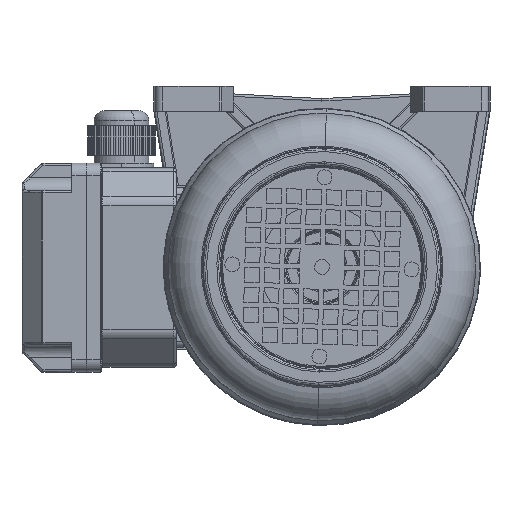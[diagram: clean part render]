
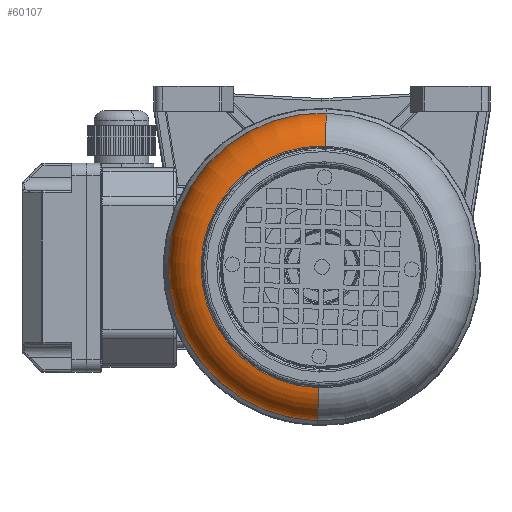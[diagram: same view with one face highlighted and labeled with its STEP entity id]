
A CAD part, front view. The second image highlights one B-rep face of the part: STEP entity #60107.
In plain terms, the highlighted toroidal (fillet/blend) face has major radius 46.75 mm and minor radius 15 mm.
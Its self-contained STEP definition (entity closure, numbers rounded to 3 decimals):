
#245 = FACE_OUTER_BOUND ( 'NONE', #28395, .T. ) ;
#696 = CARTESIAN_POINT ( 'NONE',  ( 11392.652, -26592.948, -46.75 ) ) ;
#2989 = AXIS2_PLACEMENT_3D ( 'NONE', #61931, #52221, #104706 ) ;
#4296 = DIRECTION ( 'NONE',  ( -1., 0., 0. ) ) ;
#5053 = TOROIDAL_SURFACE ( 'NONE', #2989, 46.75, 15. ) ;
#8166 = CARTESIAN_POINT ( 'NONE',  ( 11392.652, -26592.948, 46.75 ) ) ;
#12234 = CARTESIAN_POINT ( 'NONE',  ( 11392.652, -26592.948, -61.75 ) ) ;
#13534 = AXIS2_PLACEMENT_3D ( 'NONE', #696, #99410, #73740 ) ;
#16622 = CARTESIAN_POINT ( 'NONE',  ( 11407.538, -26592.948, -48.591 ) ) ;
#19940 = CIRCLE ( 'NONE', #109276, 15. ) ;
#21531 = VERTEX_POINT ( 'NONE', #12234 ) ;
#28395 = EDGE_LOOP ( 'NONE', ( #64133, #96035, #85957, #64932 ) ) ;
#28846 = VERTEX_POINT ( 'NONE', #43141 ) ;
#39144 = DIRECTION ( 'NONE',  ( 0., 0., 1. ) ) ;
#43141 = CARTESIAN_POINT ( 'NONE',  ( 11407.538, -26592.948, 48.591 ) ) ;
#52221 = DIRECTION ( 'NONE',  ( -1., 0., 0. ) ) ;
#55916 = DIRECTION ( 'NONE',  ( 0., 0., 1. ) ) ;
#56409 = VERTEX_POINT ( 'NONE', #16622 ) ;
#57053 = DIRECTION ( 'NONE',  ( -1., 0., 0. ) ) ;
#60107 = ADVANCED_FACE ( 'NONE', ( #245 ), #5053, .T. ) ;
#61867 = DIRECTION ( 'NONE',  ( 0., 0., -1. ) ) ;
#61931 = CARTESIAN_POINT ( 'NONE',  ( 11392.652, -26592.948, 0. ) ) ;
#64133 = ORIENTED_EDGE ( 'NONE', *, *, #93018, .F. ) ;
#64932 = ORIENTED_EDGE ( 'NONE', *, *, #112405, .F. ) ;
#66185 = CARTESIAN_POINT ( 'NONE',  ( 11392.652, -26592.948, 0. ) ) ;
#69566 = AXIS2_PLACEMENT_3D ( 'NONE', #83668, #4296, #39144 ) ;
#70625 = AXIS2_PLACEMENT_3D ( 'NONE', #66185, #57053, #55916 ) ;
#73740 = DIRECTION ( 'NONE',  ( 0., 0., 1. ) ) ;
#74294 = EDGE_CURVE ( 'NONE', #28846, #103303, #19940, .T. ) ;
#75019 = CIRCLE ( 'NONE', #69566, 48.591 ) ;
#78413 = DIRECTION ( 'NONE',  ( 0., -1., 0. ) ) ;
#83668 = CARTESIAN_POINT ( 'NONE',  ( 11407.538, -26592.948, 0. ) ) ;
#85957 = ORIENTED_EDGE ( 'NONE', *, *, #74294, .T. ) ;
#86398 = EDGE_CURVE ( 'NONE', #56409, #28846, #75019, .T. ) ;
#87335 = CARTESIAN_POINT ( 'NONE',  ( 11392.652, -26592.948, 61.75 ) ) ;
#93018 = EDGE_CURVE ( 'NONE', #56409, #21531, #111994, .T. ) ;
#96035 = ORIENTED_EDGE ( 'NONE', *, *, #86398, .T. ) ;
#99410 = DIRECTION ( 'NONE',  ( 0., 1., 0. ) ) ;
#103303 = VERTEX_POINT ( 'NONE', #87335 ) ;
#104706 = DIRECTION ( 'NONE',  ( 0., 0., 1. ) ) ;
#109276 = AXIS2_PLACEMENT_3D ( 'NONE', #8166, #78413, #61867 ) ;
#111994 = CIRCLE ( 'NONE', #13534, 15. ) ;
#112405 = EDGE_CURVE ( 'NONE', #21531, #103303, #112590, .T. ) ;
#112590 = CIRCLE ( 'NONE', #70625, 61.75 ) ;
